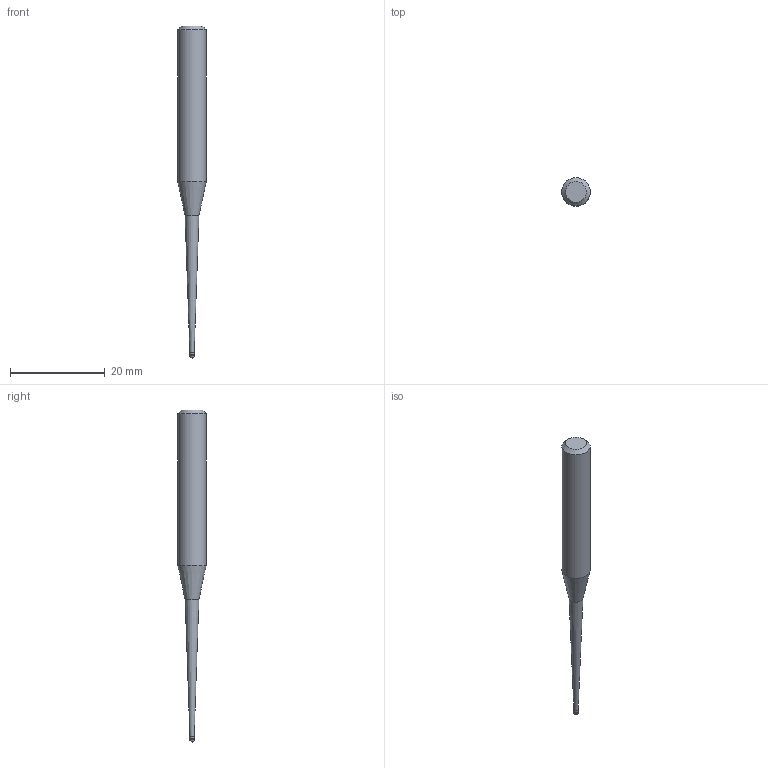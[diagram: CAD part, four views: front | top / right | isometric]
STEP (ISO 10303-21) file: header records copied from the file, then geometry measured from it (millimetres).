
FILE_DESCRIPTION((''),'2;1');
FILE_NAME('C:\Users\nsx150\AppData\Local\Temp\Mastercam 2021\E0ENTZRV18\TEMP.step','2021-09-02T09:56:17',(''),(''),'STEP Write','Mastercam 2021 ... CNC Software, Inc.','');
FILE_SCHEMA(('AUTOMOTIVE_DESIGN'));
Length unit declared in the file: millimetre
Products named in the file (1): None
Bounding box: 6 x 6 x 70 mm (x, y, z)
Volume: 1130.3 mm3; surface area: 918.5 mm2
Topology: 2 solids, 2 shells, 10 faces, 16 edges, 9 vertices
Faces by surface type: plane 3, cylinder 3, cone 3, sphere 1
Full cylindrical faces by diameter (mm): 0.905 x1, 1 x1, 6 x1
Entity records: 232 total; most frequent: DIRECTION 40, CARTESIAN_POINT 28, AXIS2_PLACEMENT_3D 20, ORIENTED_EDGE 16, EDGE_LOOP 16, STYLED_ITEM 13, ADVANCED_FACE 10, FACE_BOUND 9
